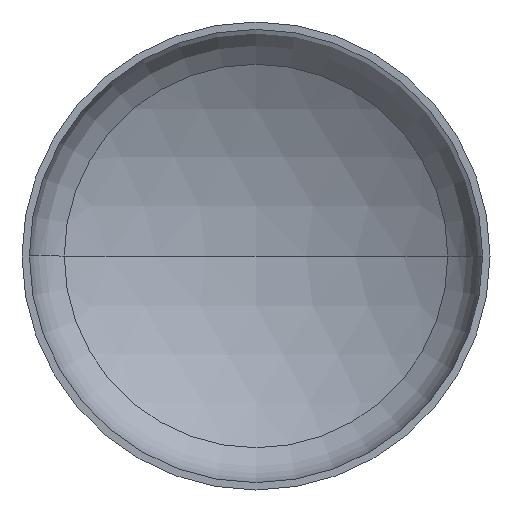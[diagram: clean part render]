
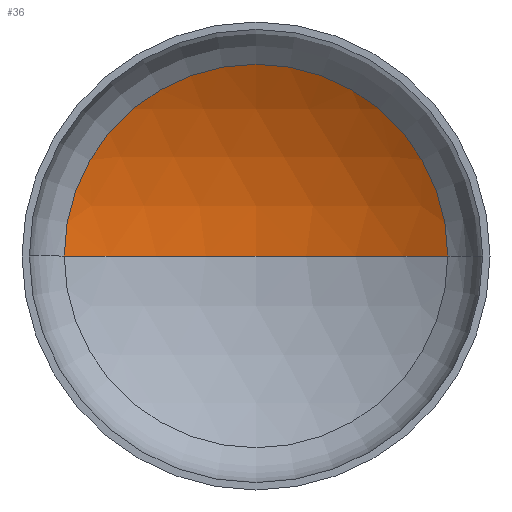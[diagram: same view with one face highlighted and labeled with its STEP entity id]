
A CAD part, front view. The second image highlights one B-rep face of the part: STEP entity #36.
In plain terms, the highlighted spherical face has radius 1520 mm.
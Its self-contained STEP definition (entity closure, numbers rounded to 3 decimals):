
#1 = ORIENTED_EDGE ( 'NONE', *, *, #57, .T. ) ;
#17 = AXIS2_PLACEMENT_3D ( 'NONE', #86, #89, #23 ) ;
#18 = AXIS2_PLACEMENT_3D ( 'NONE', #149, #221, #404 ) ;
#19 = AXIS2_PLACEMENT_3D ( 'NONE', #172, #169, #170 ) ;
#23 = DIRECTION ( 'NONE',  ( 1., 0., 0. ) ) ;
#36 = ADVANCED_FACE ( 'NONE', ( #280 ), #365, .F. ) ;
#37 = AXIS2_PLACEMENT_3D ( 'NONE', #346, #261, #265 ) ;
#56 = EDGE_CURVE ( 'NONE', #185, #197, #269, .T. ) ;
#57 = EDGE_CURVE ( 'NONE', #193, #185, #203, .T. ) ;
#59 = EDGE_CURVE ( 'NONE', #193, #197, #407, .T. ) ;
#86 = CARTESIAN_POINT ( 'NONE',  ( 0., -966.409, 0. ) ) ;
#89 = DIRECTION ( 'NONE',  ( 0., 0., 1. ) ) ;
#132 = ORIENTED_EDGE ( 'NONE', *, *, #59, .F. ) ;
#133 = CARTESIAN_POINT ( 'NONE',  ( -778.537, 339.072, 0. ) ) ;
#149 = CARTESIAN_POINT ( 'NONE',  ( 0., -966.409, 0. ) ) ;
#169 = DIRECTION ( 'NONE',  ( 0., -1., 0. ) ) ;
#170 = DIRECTION ( 'NONE',  ( 1., 0., 0. ) ) ;
#172 = CARTESIAN_POINT ( 'NONE',  ( 0., 339.072, 0. ) ) ;
#185 = VERTEX_POINT ( 'NONE', #206 ) ;
#193 = VERTEX_POINT ( 'NONE', #205 ) ;
#197 = VERTEX_POINT ( 'NONE', #133 ) ;
#203 = CIRCLE ( 'NONE', #18, 1520. ) ;
#205 = CARTESIAN_POINT ( 'NONE',  ( 0., 553.591, 0. ) ) ;
#206 = CARTESIAN_POINT ( 'NONE',  ( 778.537, 339.072, 0. ) ) ;
#221 = DIRECTION ( 'NONE',  ( 0., 0., -1. ) ) ;
#242 = EDGE_LOOP ( 'NONE', ( #132, #1, #372 ) ) ;
#261 = DIRECTION ( 'NONE',  ( 0., 0., -1. ) ) ;
#265 = DIRECTION ( 'NONE',  ( -1., 0., 0. ) ) ;
#269 = CIRCLE ( 'NONE', #19, 778.537 ) ;
#280 = FACE_OUTER_BOUND ( 'NONE', #242, .T. ) ;
#346 = CARTESIAN_POINT ( 'NONE',  ( 0., -966.409, 0. ) ) ;
#365 = SPHERICAL_SURFACE ( 'NONE', #37, 1520. ) ;
#372 = ORIENTED_EDGE ( 'NONE', *, *, #56, .T. ) ;
#404 = DIRECTION ( 'NONE',  ( -1., 0., 0. ) ) ;
#407 = CIRCLE ( 'NONE', #17, 1520. ) ;
